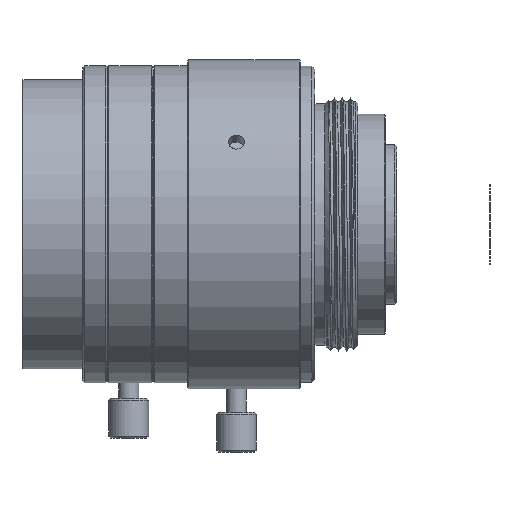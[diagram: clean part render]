
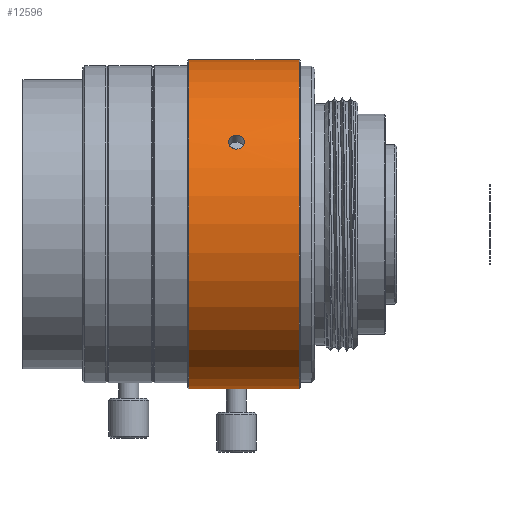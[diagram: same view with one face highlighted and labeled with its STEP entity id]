
A CAD part, left-side view. The second image highlights one B-rep face of the part: STEP entity #12596.
In plain terms, the highlighted cylindrical face has radius 16.5 mm (diameter 33 mm), a partial arc.
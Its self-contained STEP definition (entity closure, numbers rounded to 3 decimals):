
#12077=CARTESIAN_POINT('',(0.,-5.7,-16.5));
#12091=CARTESIAN_POINT('',(0.,-4.1,-16.5));
#12136=CARTESIAN_POINT('',(0.,-4.1,-16.5));
#12137=CARTESIAN_POINT('',(-0.071,-4.1,-16.5));
#12138=CARTESIAN_POINT('',(-0.207,-4.118,
-16.499));
#12139=CARTESIAN_POINT('',(-0.404,-4.199,
-16.495));
#12140=CARTESIAN_POINT('',(-0.572,-4.327,
-16.49));
#12141=CARTESIAN_POINT('',(-0.701,-4.495,
-16.485));
#12142=CARTESIAN_POINT('',(-0.782,-4.69,
-16.482));
#12143=CARTESIAN_POINT('',(-0.809,-4.901,
-16.48));
#12144=CARTESIAN_POINT('',(-0.782,-5.11,
-16.482));
#12145=CARTESIAN_POINT('',(-0.7,-5.306,
-16.485));
#12146=CARTESIAN_POINT('',(-0.572,-5.473,
-16.49));
#12147=CARTESIAN_POINT('',(-0.403,-5.602,
-16.495));
#12148=CARTESIAN_POINT('',(-0.207,-5.682,
-16.499));
#12149=CARTESIAN_POINT('',(-0.071,-5.7,-16.5));
#12150=CARTESIAN_POINT('',(0.,-5.7,-16.5));
#12152=DIRECTION('',(0.,1.,0.));
#12153=VECTOR('',#12152,4.);
#12154=CARTESIAN_POINT('',(0.,-4.1,-16.5));
#12155=LINE('',#12154,#12153);
#12156=CARTESIAN_POINT('',(0.,-0.1,0.));
#12157=DIRECTION('',(0.,1.,0.));
#12158=DIRECTION('',(0.,0.,-1.));
#12159=AXIS2_PLACEMENT_3D('',#12156,#12157,#12158);
#12161=DIRECTION('',(0.,1.,0.));
#12162=VECTOR('',#12161,11.1);
#12163=CARTESIAN_POINT('',(0.,-11.2,
16.5));
#12164=LINE('',#12163,#12162);
#12165=CARTESIAN_POINT('',(0.,-11.2,0.));
#12166=DIRECTION('',(0.,1.,0.));
#12167=DIRECTION('',(0.,0.,-1.));
#12168=AXIS2_PLACEMENT_3D('',#12165,#12166,#12167);
#12170=DIRECTION('',(0.,1.,0.));
#12171=VECTOR('',#12170,5.5);
#12172=CARTESIAN_POINT('',(0.,-11.2,
-16.5));
#12173=LINE('',#12172,#12171);
#12174=CARTESIAN_POINT('',(-14.289,-5.7,8.25));
#12175=CARTESIAN_POINT('',(-14.327,-5.7,8.186));
#12176=CARTESIAN_POINT('',(-14.397,-5.68,
8.061));
#12177=CARTESIAN_POINT('',(-14.497,-5.591,
7.881));
#12178=CARTESIAN_POINT('',(-14.577,-5.451,
7.73));
#12179=CARTESIAN_POINT('',(-14.637,-5.268,
7.617));
#12180=CARTESIAN_POINT('',(-14.671,-5.05,
7.551));
#12181=CARTESIAN_POINT('',(-14.676,-4.835,
7.542));
#12182=CARTESIAN_POINT('',(-14.656,-4.636,
7.58));
#12183=CARTESIAN_POINT('',(-14.617,-4.461,
7.655));
#12184=CARTESIAN_POINT('',(-14.557,-4.308,
7.769));
#12185=CARTESIAN_POINT('',(-14.479,-4.19,
7.913));
#12186=CARTESIAN_POINT('',(-14.386,-4.115,
8.082));
#12187=CARTESIAN_POINT('',(-14.322,-4.1,8.193));
#12188=CARTESIAN_POINT('',(-14.289,-4.1,8.25));
#12190=CARTESIAN_POINT('',(-14.289,-4.1,8.25));
#12191=CARTESIAN_POINT('',(-14.258,-4.1,8.304));
#12192=CARTESIAN_POINT('',(-14.196,-4.114,
8.411));
#12193=CARTESIAN_POINT('',(-14.097,-4.185,
8.576));
#12194=CARTESIAN_POINT('',(-14.012,-4.299,
8.713));
#12195=CARTESIAN_POINT('',(-13.943,-4.448,
8.823));
#12196=CARTESIAN_POINT('',(-13.895,-4.623,
8.899));
#12197=CARTESIAN_POINT('',(-13.87,-4.82,
8.937));
#12198=CARTESIAN_POINT('',(-13.873,-5.014,
8.933));
#12199=CARTESIAN_POINT('',(-13.9,-5.203,
8.89));
#12200=CARTESIAN_POINT('',(-13.95,-5.37,
8.812));
#12201=CARTESIAN_POINT('',(-14.019,-5.511,
8.703));
#12202=CARTESIAN_POINT('',(-14.102,-5.619,
8.567));
#12203=CARTESIAN_POINT('',(-14.197,-5.686,
8.408));
#12204=CARTESIAN_POINT('',(-14.259,-5.7,8.304));
#12205=CARTESIAN_POINT('',(-14.289,-5.7,8.25));
#12271=CARTESIAN_POINT('',(0.,-0.1,-16.5));
#12272=CARTESIAN_POINT('',(0.,-0.1,16.5));
#12273=VERTEX_POINT('',#12271);
#12274=VERTEX_POINT('',#12272);
#12275=CARTESIAN_POINT('',(0.,-11.2,16.5));
#12276=CARTESIAN_POINT('',(0.,-11.2,-16.5));
#12277=VERTEX_POINT('',#12275);
#12278=VERTEX_POINT('',#12276);
#12285=VERTEX_POINT('',#12077);
#12286=VERTEX_POINT('',#12091);
#12293=VERTEX_POINT('',#12174);
#12294=VERTEX_POINT('',#12188);
#12575=CARTESIAN_POINT('',(0.,0.565,0.));
#12576=DIRECTION('',(0.,-1.,0.));
#12577=DIRECTION('',(0.,0.,1.));
#12578=AXIS2_PLACEMENT_3D('',#12575,#12576,#12577);
#12579=CYLINDRICAL_SURFACE('',#12578,16.5);
#12580=ORIENTED_EDGE('',*,*,#12449,.F.);
#12581=ORIENTED_EDGE('',*,*,#12564,.T.);
#12583=ORIENTED_EDGE('',*,*,#12582,.T.);
#12584=ORIENTED_EDGE('',*,*,#12560,.F.);
#12586=ORIENTED_EDGE('',*,*,#12585,.F.);
#12587=ORIENTED_EDGE('',*,*,#12557,.T.);
#12588=EDGE_LOOP('',(#12580,#12581,#12583,#12584,#12586,#12587));
#12589=FACE_OUTER_BOUND('',#12588,.F.);
#12591=ORIENTED_EDGE('',*,*,#12590,.F.);
#12593=ORIENTED_EDGE('',*,*,#12592,.F.);
#12594=EDGE_LOOP('',(#12591,#12593));
#12595=FACE_BOUND('',#12594,.F.);
#12596=ADVANCED_FACE('',(#12589,#12595),#12579,.T.);
#12151=B_SPLINE_CURVE_WITH_KNOTS('',3,(#12136,#12137,#12138,#12139,#12140,
#12141,#12142,#12143,#12144,#12145,#12146,#12147,#12148,#12149,#12150),
.UNSPECIFIED.,.F.,.F.,(4,1,1,1,1,1,1,1,1,1,1,1,4),(0.,0.083,
0.167,0.25,0.333,0.417,0.5,
0.583,0.667,0.75,0.833,0.917,
1.),.UNSPECIFIED.);
#12160=CIRCLE('',#12159,16.5);
#12169=CIRCLE('',#12168,16.5);
#12189=B_SPLINE_CURVE_WITH_KNOTS('',3,(#12174,#12175,#12176,#12177,#12178,
#12179,#12180,#12181,#12182,#12183,#12184,#12185,#12186,#12187,#12188),
.UNSPECIFIED.,.F.,.F.,(4,1,1,1,1,1,1,1,1,1,1,1,4),(0.,0.083,
0.167,0.25,0.333,0.417,0.5,
0.583,0.667,0.75,0.833,0.917,
1.),.UNSPECIFIED.);
#12206=B_SPLINE_CURVE_WITH_KNOTS('',3,(#12190,#12191,#12192,#12193,#12194,
#12195,#12196,#12197,#12198,#12199,#12200,#12201,#12202,#12203,#12204,#12205),
.UNSPECIFIED.,.F.,.F.,(4,1,1,1,1,1,1,1,1,1,1,1,1,4),(0.,0.077,
0.154,0.231,0.308,0.385,
0.462,0.538,0.615,0.692,
0.769,0.846,0.923,1.),.UNSPECIFIED.);
#12449=EDGE_CURVE('',#12286,#12285,#12151,.T.);
#12557=EDGE_CURVE('',#12278,#12285,#12173,.T.);
#12560=EDGE_CURVE('',#12277,#12274,#12164,.T.);
#12564=EDGE_CURVE('',#12286,#12273,#12155,.T.);
#12582=EDGE_CURVE('',#12273,#12274,#12160,.T.);
#12585=EDGE_CURVE('',#12278,#12277,#12169,.T.);
#12590=EDGE_CURVE('',#12293,#12294,#12189,.T.);
#12592=EDGE_CURVE('',#12294,#12293,#12206,.T.);
